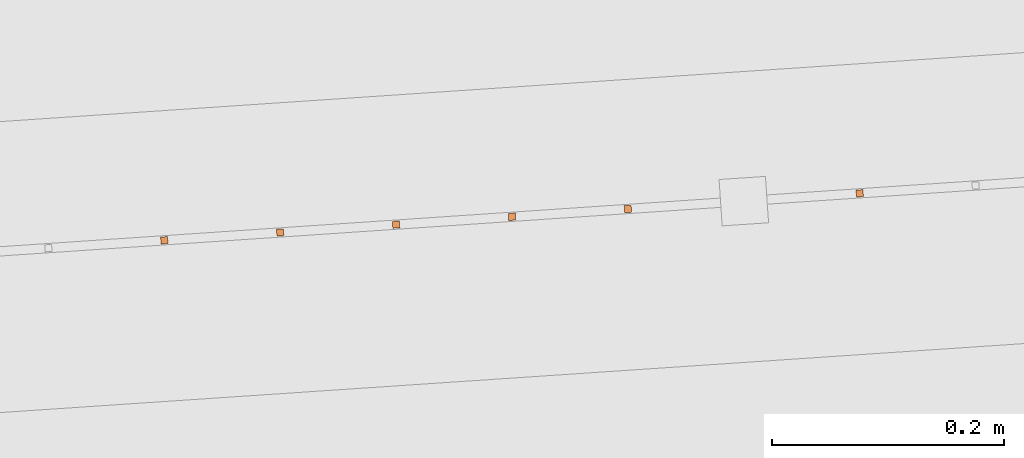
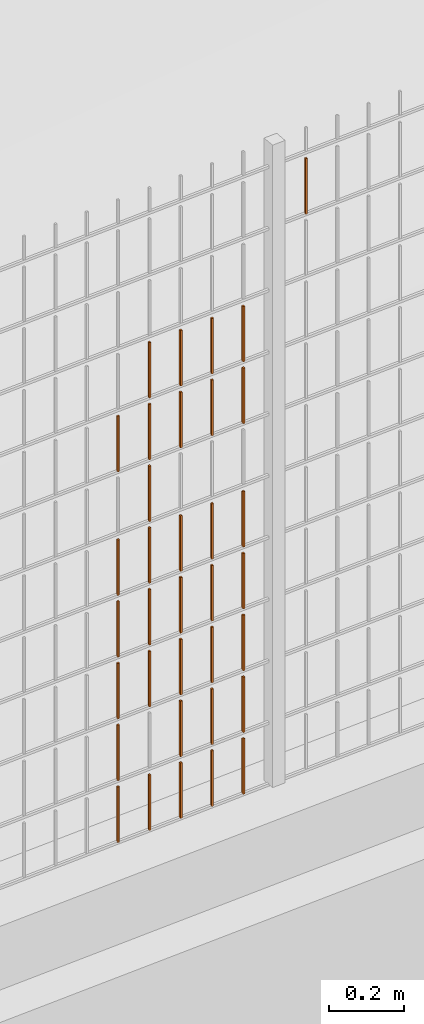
# One storey, part 188 of 1809: 35 proxies, 1 element without a shape of its own.
"""IFC2X3 building model written with IfcOpenShell, lengths in millimetres."""

import ifcopenshell
import ifcopenshell.guid

model = None  # the IFC model being written
_history = None  # IfcOwnerHistory: only IFC2X3 demands one
_inside = {}  # id of a spatial element -> (the spatial element, [elements in it])
_under = {}  # id of a project, library or spatial element -> (it, [spatial elements below it])
_declared = {}  # id of a project -> (the project, [libraries it declares])
_typed = {}  # id of a type object -> (the type object, [elements of that type])
_made_of = {}  # id of a material, layer set ... -> (it, [elements and type objects made of it])


def new_model(schema):
    """Start an empty IFC model of exactly this schema.

    Asked for "IFC4X3", IfcOpenShell would pick the latest addendum, in which some entities
    have other attributes; the version numbers below select the first issue.
    IFC2X3 requires an IfcOwnerHistory on every rooted entity: one is made here for all.
    """
    global model, _history
    if schema == "IFC4X3":
        model = ifcopenshell.file(schema_version=(4, 3, 0, 0))
    else:
        model = ifcopenshell.file(schema=schema)
    _inside.clear()
    _under.clear()
    _declared.clear()
    _typed.clear()
    _made_of.clear()
    _history = None
    if model.schema == "IFC2X3":
        org = make("IfcOrganization", Name="unknown")
        user = make(
            "IfcPersonAndOrganization",
            ThePerson=make("IfcPerson", FamilyName="unknown"),
            TheOrganization=org,
        )
        app = make(
            "IfcApplication",
            ApplicationDeveloper=org,
            Version="unknown",
            ApplicationFullName="unknown",
            ApplicationIdentifier="unknown",
        )
        _history = make(
            "IfcOwnerHistory",
            OwningUser=user,
            OwningApplication=app,
            ChangeAction="ADDED",
            CreationDate=0,
        )
    return model


def make(cls, **values):
    """One entity of the class cls with the attributes given. An attribute that is None is left unset."""
    return model.create_entity(
        cls, **{name: value for name, value in values.items() if value is not None}
    )


def entity(cls, *values):
    """Any entity or typed value of the class cls, its attributes in the order of the schema. None: left unset."""
    e = model.create_entity(cls)
    for i, value in enumerate(values):
        if value is not None:
            e[i] = value
    return e


def rooted(cls, **values):
    """An entity with a GlobalId (a new one), such as an element, a storey or a relation."""
    return make(cls, GlobalId=ifcopenshell.guid.new(), OwnerHistory=_history, **values)


def si_unit(unit_type, name, prefix=None):
    """IfcSIUnit, for example si_unit("LENGTHUNIT", "METRE", prefix="MILLI")."""
    return make("IfcSIUnit", UnitType=unit_type, Prefix=prefix, Name=name)


def converted_unit(unit_type, name, factor, base, dimensions=None, offset=None):
    """IfcConversionBasedUnit, such as the inch: factor (a typed value) times the base unit."""
    return make(
        "IfcConversionBasedUnit"
        if offset is None
        else "IfcConversionBasedUnitWithOffset",
        ConversionOffset=offset,
        Dimensions=None
        if dimensions is None
        else entity("IfcDimensionalExponents", *dimensions),
        UnitType=unit_type,
        Name=name,
        ConversionFactor=make(
            "IfcMeasureWithUnit", ValueComponent=factor, UnitComponent=base
        ),
    )


def derived_unit(unit_type, elements):
    """IfcDerivedUnit: a product of units, each with its exponent."""
    return make(
        "IfcDerivedUnit",
        Elements=[
            make("IfcDerivedUnitElement", Unit=unit, Exponent=power)
            for unit, power in elements
        ],
        UnitType=unit_type,
    )


def money_unit(currency):
    """IfcMonetaryUnit."""
    return make("IfcMonetaryUnit", Currency=currency)


def assignment(units):
    """IfcUnitAssignment: the units of a project."""
    return None if units is None else make("IfcUnitAssignment", Units=units)


def point(xyz):
    """IfcCartesianPoint."""
    return None if xyz is None else make("IfcCartesianPoint", Coordinates=xyz)


def direction(xyz):
    """IfcDirection."""
    return None if xyz is None else make("IfcDirection", DirectionRatios=xyz)


def frame(location, z_axis=None, x_axis=None):
    """IfcAxis2Placement3D, a coordinate frame: its origin and axes. An axis left out is left unset."""
    return make(
        "IfcAxis2Placement3D",
        Location=point(location),
        Axis=direction(z_axis),
        RefDirection=direction(x_axis),
    )


def origin_with_axes():
    """The frame at (0, 0, 0) with the z axis (0, 0, 1) and the x axis (1, 0, 0) written out."""
    return frame((0.0, 0.0, 0.0), z_axis=(0.0, 0.0, 1.0), x_axis=(1.0, 0.0, 0.0))


def place(relative_to, where):
    """IfcLocalPlacement: puts the frame where relative to a parent placement (None: the world)."""
    return make(
        "IfcLocalPlacement", PlacementRelTo=relative_to, RelativePlacement=where
    )


def context(
    kind, dimensions, precision=None, world=None, true_north=None, identifier=None
):
    """IfcGeometricRepresentationContext, for example the 3D "Model" context."""
    return make(
        "IfcGeometricRepresentationContext",
        ContextIdentifier=identifier,
        ContextType=kind,
        CoordinateSpaceDimension=dimensions,
        Precision=precision,
        WorldCoordinateSystem=world,
        TrueNorth=true_north,
    )


def subcontext(parent, identifier, kind, view, scale=None):
    """IfcGeometricRepresentationSubContext, for example "Body" below "Model"."""
    return make(
        "IfcGeometricRepresentationSubContext",
        ContextIdentifier=identifier,
        ContextType=kind,
        ParentContext=parent,
        TargetScale=scale,
        TargetView=view,
    )


def project(units=None, contexts=None):
    """IfcProject with its units and contexts."""
    return rooted(
        "IfcProject",
        Name="project",
        RepresentationContexts=contexts,
        UnitsInContext=assignment(units),
    )


def spatial(cls, under=None, at=None, **own):
    """A site, building, storey or space (cls), placed at a placement, below another one or the project."""
    s = rooted(cls, ObjectPlacement=at, **own)
    if under is not None:
        _under.setdefault(under.id(), (under, []))[1].append(s)
    return s


def faces_of(points, faces, orient=None, outer=None):
    """IfcFace entities. A face is a list of loops; a loop is a list of indices into points, from 0.

    orient and outer hold one flag for each loop. By default every Orientation is true, the
    first loop of a face is its IfcFaceOuterBound and the others are IfcFaceBound.
    """
    made = []
    for i, loops in enumerate(faces):
        bounds = []
        for j, loop in enumerate(loops):
            is_outer = j == 0 if outer is None else outer[i][j]
            bounds.append(
                make(
                    "IfcFaceOuterBound" if is_outer else "IfcFaceBound",
                    Bound=make("IfcPolyLoop", Polygon=[points[k] for k in loop]),
                    Orientation=True if orient is None else orient[i][j],
                )
            )
        made.append(make("IfcFace", Bounds=bounds))
    return made


def faceted_brep(points, faces, orient=None, outer=None, voids=None):
    """IfcFacetedBrep: a solid bounded by flat faces; with voids (closed shells), ...WithVoids."""
    shared = [point(p) for p in points]
    hull = make("IfcClosedShell", CfsFaces=faces_of(shared, faces, orient, outer))
    if voids is None:
        return make("IfcFacetedBrep", Outer=hull)
    return make(
        "IfcFacetedBrepWithVoids",
        Outer=hull,
        Voids=[
            make(cls, CfsFaces=faces_of(shared, fs, o, b)) for cls, fs, o, b in voids
        ],
    )


def shape(context_of_items, identifier, shape_type, items):
    """IfcShapeRepresentation: the items that make up one representation, for example the "Body"."""
    return make(
        "IfcShapeRepresentation",
        ContextOfItems=context_of_items,
        RepresentationIdentifier=identifier,
        RepresentationType=shape_type,
        Items=items,
    )


def source(mapping_origin, context_of_items, identifier, shape_type, items):
    """IfcRepresentationMap: a shape defined once, which mapped items show again and again."""
    return make(
        "IfcRepresentationMap",
        MappingOrigin=mapping_origin,
        MappedRepresentation=shape(context_of_items, identifier, shape_type, items),
    )


def transform(
    local_origin,
    x_axis=None,
    y_axis=None,
    z_axis=None,
    scale=None,
    scale2=None,
    scale3=None,
    uniform=True,
):
    """IfcCartesianTransformationOperator3D, or its non-uniform kind. x_axis, y_axis, z_axis: its Axis1, 2, 3."""
    if uniform:
        return make(
            "IfcCartesianTransformationOperator3D",
            Axis1=direction(x_axis),
            Axis2=direction(y_axis),
            LocalOrigin=point(local_origin),
            Scale=scale,
            Axis3=direction(z_axis),
        )
    return make(
        "IfcCartesianTransformationOperator3DnonUniform",
        Axis1=direction(x_axis),
        Axis2=direction(y_axis),
        LocalOrigin=point(local_origin),
        Scale=scale,
        Axis3=direction(z_axis),
        Scale2=scale2,
        Scale3=scale3,
    )


def mapped(mapping_source, mapping_target):
    """IfcMappedItem: shows the shape of a source again, moved by a transform."""
    return make(
        "IfcMappedItem", MappingSource=mapping_source, MappingTarget=mapping_target
    )


def material(Name=None, Category=None):
    """IfcMaterial."""
    return make("IfcMaterial", Name=Name, Category=Category)


def made_of(thing, what):
    """Note that an element or type object is made of a material, layer set ...; save() writes the relation."""
    if what is not None:
        _made_of.setdefault(what.id(), (what, []))[1].append(thing)
    return thing


def type_object(cls, material=None, **own):
    """A type object (cls), such as IfcWallType, which elements share."""
    return made_of(rooted(cls, **own), material)


def element(
    cls,
    number,
    at=None,
    inside=None,
    cuts=None,
    type_object=None,
    material=None,
    context=None,
    identifier="Body",
    shape_type=None,
    held_by="IfcProductDefinitionShape",
    body=None,
    shapes=None,
    **own,
):
    """One element of the class cls, such as IfcWall. Its Tag is "e" and its number.

    at: its placement. inside: the storey or other place that contains it. cuts: it is an
    opening in that element (IfcRelVoidsElement). A single representation is given by context,
    identifier, shape_type and body (its items); several are given by shapes. held_by: the class
    of the entity that holds the representations. save() writes the other relations.
    """
    e = rooted(cls, Tag="e%d" % number, ObjectPlacement=at, **own)
    if body is not None:
        shapes = [shape(context, identifier, shape_type, body)]
    if shapes is not None:
        e.Representation = make(held_by, Representations=shapes)
    if inside is not None:
        _inside.setdefault(inside.id(), (inside, []))[1].append(e)
    if cuts is not None:
        rooted(
            "IfcRelVoidsElement", RelatingBuildingElement=cuts, RelatedOpeningElement=e
        )
    if type_object is not None:
        _typed.setdefault(type_object.id(), (type_object, []))[1].append(e)
    return made_of(e, material)


def aggregate(whole, parts):
    """IfcRelAggregates: a whole, such as a stair, and the parts it consists of."""
    return rooted("IfcRelAggregates", RelatingObject=whole, RelatedObjects=parts)


def save(model, path):
    """Write the relations noted so far, then the file.

    IfcRelAggregates (storeys below a building ...), IfcRelContainedInSpatialStructure (elements
    in a storey), IfcRelDefinesByType, IfcRelAssociatesMaterial and IfcRelDeclares: one each for
    every whole, place, type object, material and project.
    """
    for whole, parts in _under.values():
        aggregate(whole, parts)
    for where, things in _inside.values():
        rooted(
            "IfcRelContainedInSpatialStructure",
            RelatedElements=things,
            RelatingStructure=where,
        )
    for kind, things in _typed.values():
        rooted("IfcRelDefinesByType", RelatedObjects=things, RelatingType=kind)
    for what, things in _made_of.values():
        rooted("IfcRelAssociatesMaterial", RelatedObjects=things, RelatingMaterial=what)
    for by, libraries in _declared.values():
        rooted("IfcRelDeclares", RelatingContext=by, RelatedDefinitions=libraries)
    model.write(path)


model = new_model("IFC2X3")

# Units and contexts
model_context = context("Model", 3, precision=0.01, world=origin_with_axes(), true_north=direction((0.0, 1.0)))
body_context = subcontext(model_context, "Body", "Model", "MODEL_VIEW")
ifc_project = project(units=[si_unit("LENGTHUNIT", "METRE", prefix="MILLI"), si_unit("AREAUNIT", "SQUARE_METRE"), si_unit("VOLUMEUNIT", "CUBIC_METRE"), converted_unit("PLANEANGLEUNIT", "DEGREE", entity("IfcPlaneAngleMeasure", 0.0174532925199), si_unit("PLANEANGLEUNIT", "RADIAN"), dimensions=[0, 0, 0, 0, 0, 0, 0]), si_unit("SOLIDANGLEUNIT", "STERADIAN"), money_unit("EUR"), converted_unit("TIMEUNIT", "Year", entity("IfcTimeMeasure", 31556926.0), si_unit("TIMEUNIT", "SECOND"), dimensions=[0, 0, 1, 0, 0, 0, 0]), si_unit("MASSUNIT", "GRAM", prefix="KILO"), si_unit("THERMODYNAMICTEMPERATUREUNIT", "DEGREE_CELSIUS"), si_unit("LUMINOUSINTENSITYUNIT", "LUMEN"), si_unit("ENERGYUNIT", "JOULE", prefix="MEGA"), derived_unit("THERMALCONDUCTANCEUNIT", [(si_unit("POWERUNIT", "WATT"), 1), (si_unit("LENGTHUNIT", "METRE"), -1), (si_unit("THERMODYNAMICTEMPERATUREUNIT", "KELVIN"), -1)]), derived_unit("SPECIFICHEATCAPACITYUNIT", [(si_unit("ENERGYUNIT", "JOULE"), 1), (si_unit("MASSUNIT", "GRAM", prefix="KILO"), -1), (si_unit("THERMODYNAMICTEMPERATUREUNIT", "KELVIN"), -1)]), derived_unit("MASSDENSITYUNIT", [(si_unit("MASSUNIT", "GRAM", prefix="KILO"), 1), (si_unit("VOLUMEUNIT", "CUBIC_METRE"), -1)])], contexts=[model_context])

# Site, building, storey
site_placement = place(None, origin_with_axes())
site = spatial("IfcSite", under=ifc_project, at=site_placement, Name="Politse- ja Piirivalveameti ning Päästeameti ühishoone", CompositionType="ELEMENT")
building_placement = place(site_placement, origin_with_axes())
building = spatial("IfcBuilding", under=site, at=building_placement, Name="Politse- ja Piirivalveameti ning Päästeameti ühishoone", CompositionType="ELEMENT")
storey_placement = place(building_placement, origin_with_axes())
storey = spatial("IfcBuildingStorey", under=building, at=storey_placement, Name="Esimene korrus", CompositionType="ELEMENT", Elevation=0.0)

# Proxies
building_element_proxy_type_1 = type_object("IfcBuildingElementProxyType", Name="Railing Type", PredefinedType="NOTDEFINED")
proxy_1_placement = place(storey_placement, frame((89252.001212, -29183.4766571, 203.661247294), z_axis=(0.0, 0.0, 1.0), x_axis=(1.0, 0.0, 0.0)))
proxy_1 = element("IfcBuildingElementProxy", 1, at=proxy_1_placement, inside=storey, type_object=building_element_proxy_type_1, Name="PIIRDEAED")
ifc_material = material(Name="ET-03_Raud")
building_element_proxy_type_2 = type_object("IfcBuildingElementProxyType", Name="IfcBuildingElementProxy", PredefinedType="NOTDEFINED")
shared_shape_1 = source(origin_with_axes(), body_context, "Body", "Brep", [
    faceted_brep([(3.0, 3.0, -0.000752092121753), (-3.0, 3.0, -0.000752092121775), (-3.0, 3.0, 179.99926046), (3.0, 3.0, 179.99926046), (3.0, -3.0, 0.000752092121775), (-3.0, -3.0, 0.000752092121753), (-3.0, -3.0, 180.000764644), (3.0, -3.0, 180.000764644)], [[[0, 1, 2, 3]], [[0, 4, 5, 1]], [[1, 5, 6, 2]], [[3, 2, 6, 7]], [[4, 0, 3, 7]], [[5, 4, 7, 6]]]),
])
proxy_2_placement = place(proxy_1_placement, frame((-69568.1664524, -21996.8418647, 1809.75408794), z_axis=(0.0, 0.0, 1.0), x_axis=(1.0, 0.0, 0.0)))
proxy_2 = element("IfcBuildingElementProxy", 2, at=proxy_2_placement, type_object=building_element_proxy_type_2, material=ifc_material, Name="BALUSTER - 001", context=body_context, shape_type="MappedRepresentation", body=[
    mapped(shared_shape_1, transform((0.0, 0.0, 0.0), x_axis=(-0.0673926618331, 0.997726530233, 0.0), y_axis=(-0.997726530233, -0.0673926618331, 0.0), z_axis=(0.0, 0.0, 1.0))),
])
shared_shape_2 = source(origin_with_axes(), body_context, "Body", "Brep", [
    faceted_brep([(3.0, 3.0, -0.000752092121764), (-3.0, 3.0, -0.000752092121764), (-3.0, 3.0, 179.99926046), (3.0, 3.0, 179.99926046), (3.0, -3.0, 0.000752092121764), (-3.0, -3.0, 0.000752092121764), (-3.0, -3.0, 180.000764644), (3.0, -3.0, 180.000764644)], [[[0, 1, 2, 3]], [[0, 4, 5, 1]], [[1, 5, 6, 2]], [[3, 2, 6, 7]], [[4, 0, 3, 7]], [[5, 4, 7, 6]]]),
])
proxy_3_placement = place(proxy_1_placement, frame((-70166.8023706, -22037.2774618, 9.60366951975), z_axis=(0.0, 0.0, 1.0), x_axis=(1.0, 0.0, 0.0)))
proxy_3 = element("IfcBuildingElementProxy", 3, at=proxy_3_placement, type_object=building_element_proxy_type_2, material=ifc_material, Name="BALUSTER - 001", context=body_context, shape_type="MappedRepresentation", body=[
    mapped(shared_shape_2, transform((0.0, 0.0, 0.0), x_axis=(-0.0673926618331, 0.997726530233, 0.0), y_axis=(-0.997726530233, -0.0673926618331, 0.0), z_axis=(0.0, 0.0, 1.0))),
])
shared_shape_3 = source(origin_with_axes(), body_context, "Body", "Brep", [
    faceted_brep([(3.0, 3.0, -0.000752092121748), (-3.0, 3.0, -0.00075209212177), (-3.0, 3.0, 179.99926046), (3.0, 3.0, 179.99926046), (3.0, -3.0, 0.00075209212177), (-3.0, -3.0, 0.000752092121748), (-3.0, -3.0, 180.000764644), (3.0, -3.0, 180.000764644)], [[[0, 1, 2, 3]], [[0, 4, 5, 1]], [[1, 5, 6, 2]], [[3, 2, 6, 7]], [[4, 0, 3, 7]], [[5, 4, 7, 6]]]),
])
proxy_4_placement = place(proxy_1_placement, frame((-69767.7117585, -22010.320397, 9.70394846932), z_axis=(0.0, 0.0, 1.0), x_axis=(1.0, 0.0, 0.0)))
proxy_4 = element("IfcBuildingElementProxy", 4, at=proxy_4_placement, type_object=building_element_proxy_type_2, material=ifc_material, Name="BALUSTER - 001", context=body_context, shape_type="MappedRepresentation", body=[
    mapped(shared_shape_3, transform((0.0, 0.0, 0.0), x_axis=(-0.0673926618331, 0.997726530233, 0.0), y_axis=(-0.997726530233, -0.0673926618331, 0.0), z_axis=(0.0, 0.0, 1.0))),
])
shared_shape_4 = source(origin_with_axes(), body_context, "Body", "Brep", [
    faceted_brep([(3.0, 3.0, -0.000752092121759), (-3.0, 3.0, -0.000752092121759), (-3.0, 3.0, 179.99926046), (3.0, 3.0, 179.99926046), (3.0, -3.0, 0.000752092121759), (-3.0, -3.0, 0.000752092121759), (-3.0, -3.0, 180.000764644), (3.0, -3.0, 180.000764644)], [[[0, 1, 2, 3]], [[0, 4, 5, 1]], [[1, 5, 6, 2]], [[3, 2, 6, 7]], [[4, 0, 3, 7]], [[5, 4, 7, 6]]]),
])
proxy_5_placement = place(proxy_1_placement, frame((-69967.2570645, -22023.7989294, 9.65380899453), z_axis=(0.0, 0.0, 1.0), x_axis=(1.0, 0.0, 0.0)))
proxy_5 = element("IfcBuildingElementProxy", 5, at=proxy_5_placement, type_object=building_element_proxy_type_2, material=ifc_material, Name="BALUSTER - 001", context=body_context, shape_type="MappedRepresentation", body=[
    mapped(shared_shape_4, transform((0.0, 0.0, 0.0), x_axis=(-0.0673926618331, 0.997726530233, 0.0), y_axis=(-0.997726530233, -0.0673926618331, 0.0), z_axis=(0.0, 0.0, 1.0))),
])
shared_shape_5 = source(origin_with_axes(), body_context, "Body", "Brep", [
    faceted_brep([(3.0, 3.0, -0.000752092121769), (-3.0, 3.0, -0.000752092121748), (-3.0, 3.0, 179.99926046), (3.0, 3.0, 179.99926046), (3.0, -3.0, 0.000752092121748), (-3.0, -3.0, 0.000752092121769), (-3.0, -3.0, 180.000764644), (3.0, -3.0, 180.000764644)], [[[0, 1, 2, 3]], [[0, 4, 5, 1]], [[1, 5, 6, 2]], [[3, 2, 6, 7]], [[4, 0, 3, 7]], [[5, 4, 7, 6]]]),
])
proxy_6_placement = place(proxy_1_placement, frame((-70067.0297175, -22030.5381956, 9.62873925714), z_axis=(0.0, 0.0, 1.0), x_axis=(1.0, 0.0, 0.0)))
proxy_6 = element("IfcBuildingElementProxy", 6, at=proxy_6_placement, type_object=building_element_proxy_type_2, material=ifc_material, Name="BALUSTER - 001", context=body_context, shape_type="MappedRepresentation", body=[
    mapped(shared_shape_5, transform((0.0, 0.0, 0.0), x_axis=(-0.0673926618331, 0.997726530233, 0.0), y_axis=(-0.997726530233, -0.0673926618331, 0.0), z_axis=(0.0, 0.0, 1.0))),
])
shared_shape_6 = source(origin_with_axes(), body_context, "Body", "Brep", [
    faceted_brep([(3.0, 3.0, -0.000752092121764), (-3.0, 3.0, -0.000752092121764), (-3.0, 3.0, 179.99926046), (3.0, 3.0, 179.99926046), (3.0, -3.0, 0.000752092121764), (-3.0, -3.0, 0.000752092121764), (-3.0, -3.0, 180.000764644), (3.0, -3.0, 180.000764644)], [[[0, 1, 2, 3]], [[0, 4, 5, 1]], [[1, 5, 6, 2]], [[3, 2, 6, 7]], [[4, 0, 3, 7]], [[5, 4, 7, 6]]]),
])
proxy_7_placement = place(proxy_1_placement, frame((-69867.4844115, -22017.0596632, 9.67887873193), z_axis=(0.0, 0.0, 1.0), x_axis=(1.0, 0.0, 0.0)))
proxy_7 = element("IfcBuildingElementProxy", 7, at=proxy_7_placement, type_object=building_element_proxy_type_2, material=ifc_material, Name="BALUSTER - 001", context=body_context, shape_type="MappedRepresentation", body=[
    mapped(shared_shape_6, transform((0.0, 0.0, 0.0), x_axis=(-0.0673926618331, 0.997726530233, 0.0), y_axis=(-0.997726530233, -0.0673926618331, 0.0), z_axis=(0.0, 0.0, 1.0))),
])
shared_shape_7 = source(origin_with_axes(), body_context, "Body", "Brep", [
    faceted_brep([(3.0, 3.0, -0.000752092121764), (-3.0, 3.0, -0.000752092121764), (-3.0, 3.0, 179.99926046), (3.0, 3.0, 179.99926046), (3.0, -3.0, 0.000752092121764), (-3.0, -3.0, 0.000752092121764), (-3.0, -3.0, 180.000764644), (3.0, -3.0, 180.000764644)], [[[0, 1, 2, 3]], [[0, 4, 5, 1]], [[1, 5, 6, 2]], [[3, 2, 6, 7]], [[4, 0, 3, 7]], [[5, 4, 7, 6]]]),
])
proxy_8_placement = place(proxy_1_placement, frame((-70166.8023706, -22037.2774618, 209.60366952), z_axis=(0.0, 0.0, 1.0), x_axis=(1.0, 0.0, 0.0)))
proxy_8 = element("IfcBuildingElementProxy", 8, at=proxy_8_placement, type_object=building_element_proxy_type_2, material=ifc_material, Name="BALUSTER - 001", context=body_context, shape_type="MappedRepresentation", body=[
    mapped(shared_shape_7, transform((0.0, 0.0, 0.0), x_axis=(-0.0673926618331, 0.997726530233, 0.0), y_axis=(-0.997726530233, -0.0673926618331, 0.0), z_axis=(0.0, 0.0, 1.0))),
])
shared_shape_8 = source(origin_with_axes(), body_context, "Body", "Brep", [
    faceted_brep([(3.0, 3.0, -0.000752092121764), (-3.0, 3.0, -0.000752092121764), (-3.0, 3.0, 179.99926046), (3.0, 3.0, 179.99926046), (3.0, -3.0, 0.000752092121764), (-3.0, -3.0, 0.000752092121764), (-3.0, -3.0, 180.000764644), (3.0, -3.0, 180.000764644)], [[[0, 1, 2, 3]], [[0, 4, 5, 1]], [[1, 5, 6, 2]], [[3, 2, 6, 7]], [[4, 0, 3, 7]], [[5, 4, 7, 6]]]),
])
proxy_9_placement = place(proxy_1_placement, frame((-69867.4844115, -22017.0596632, 209.678878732), z_axis=(0.0, 0.0, 1.0), x_axis=(1.0, 0.0, 0.0)))
proxy_9 = element("IfcBuildingElementProxy", 9, at=proxy_9_placement, type_object=building_element_proxy_type_2, material=ifc_material, Name="BALUSTER - 001", context=body_context, shape_type="MappedRepresentation", body=[
    mapped(shared_shape_8, transform((0.0, 0.0, 0.0), x_axis=(-0.0673926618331, 0.997726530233, 0.0), y_axis=(-0.997726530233, -0.0673926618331, 0.0), z_axis=(0.0, 0.0, 1.0))),
])
proxy_10_placement = place(proxy_1_placement, frame((-70166.8023706, -22037.2774618, 409.60366952), z_axis=(0.0, 0.0, 1.0), x_axis=(1.0, 0.0, 0.0)))
proxy_10 = element("IfcBuildingElementProxy", 10, at=proxy_10_placement, type_object=building_element_proxy_type_2, material=ifc_material, Name="BALUSTER - 001", context=body_context, shape_type="MappedRepresentation", body=[
    mapped(shared_shape_8, transform((0.0, 0.0, 0.0), x_axis=(-0.0673926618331, 0.997726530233, 0.0), y_axis=(-0.997726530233, -0.0673926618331, 0.0), z_axis=(0.0, 0.0, 1.0))),
])
proxy_11_placement = place(proxy_1_placement, frame((-69867.4844115, -22017.0596632, 609.678878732), z_axis=(0.0, 0.0, 1.0), x_axis=(1.0, 0.0, 0.0)))
proxy_11 = element("IfcBuildingElementProxy", 11, at=proxy_11_placement, type_object=building_element_proxy_type_2, material=ifc_material, Name="BALUSTER - 001", context=body_context, shape_type="MappedRepresentation", body=[
    mapped(shared_shape_8, transform((0.0, 0.0, 0.0), x_axis=(-0.0673926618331, 0.997726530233, 0.0), y_axis=(-0.997726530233, -0.0673926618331, 0.0), z_axis=(0.0, 0.0, 1.0))),
])
proxy_12_placement = place(proxy_1_placement, frame((-70166.8023706, -22037.2774618, 609.60366952), z_axis=(0.0, 0.0, 1.0), x_axis=(1.0, 0.0, 0.0)))
proxy_12 = element("IfcBuildingElementProxy", 12, at=proxy_12_placement, type_object=building_element_proxy_type_2, material=ifc_material, Name="BALUSTER - 001", context=body_context, shape_type="MappedRepresentation", body=[
    mapped(shared_shape_8, transform((0.0, 0.0, 0.0), x_axis=(-0.0673926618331, 0.997726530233, 0.0), y_axis=(-0.997726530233, -0.0673926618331, 0.0), z_axis=(0.0, 0.0, 1.0))),
])
shared_shape_9 = source(origin_with_axes(), body_context, "Body", "Brep", [
    faceted_brep([(3.0, 3.0, -0.000752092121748), (-3.0, 3.0, -0.00075209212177), (-3.0, 3.0, 179.99926046), (3.0, 3.0, 179.99926046), (3.0, -3.0, 0.00075209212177), (-3.0, -3.0, 0.000752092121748), (-3.0, -3.0, 180.000764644), (3.0, -3.0, 180.000764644)], [[[0, 1, 2, 3]], [[0, 4, 5, 1]], [[1, 5, 6, 2]], [[3, 2, 6, 7]], [[4, 0, 3, 7]], [[5, 4, 7, 6]]]),
])
proxy_13_placement = place(proxy_1_placement, frame((-69767.7117585, -22010.320397, 209.703948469), z_axis=(0.0, 0.0, 1.0), x_axis=(1.0, 0.0, 0.0)))
proxy_13 = element("IfcBuildingElementProxy", 13, at=proxy_13_placement, type_object=building_element_proxy_type_2, material=ifc_material, Name="BALUSTER - 001", context=body_context, shape_type="MappedRepresentation", body=[
    mapped(shared_shape_9, transform((0.0, 0.0, 0.0), x_axis=(-0.0673926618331, 0.997726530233, 0.0), y_axis=(-0.997726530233, -0.0673926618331, 0.0), z_axis=(0.0, 0.0, 1.0))),
])
proxy_14_placement = place(proxy_1_placement, frame((-69767.7117585, -22010.320397, 409.703948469), z_axis=(0.0, 0.0, 1.0), x_axis=(1.0, 0.0, 0.0)))
proxy_14 = element("IfcBuildingElementProxy", 14, at=proxy_14_placement, type_object=building_element_proxy_type_2, material=ifc_material, Name="BALUSTER - 001", context=body_context, shape_type="MappedRepresentation", body=[
    mapped(shared_shape_9, transform((0.0, 0.0, 0.0), x_axis=(-0.0673926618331, 0.997726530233, 0.0), y_axis=(-0.997726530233, -0.0673926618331, 0.0), z_axis=(0.0, 0.0, 1.0))),
])
shared_shape_10 = source(origin_with_axes(), body_context, "Body", "Brep", [
    faceted_brep([(3.0, 3.0, -0.000752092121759), (-3.0, 3.0, -0.000752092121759), (-3.0, 3.0, 179.99926046), (3.0, 3.0, 179.99926046), (3.0, -3.0, 0.000752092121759), (-3.0, -3.0, 0.000752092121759), (-3.0, -3.0, 180.000764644), (3.0, -3.0, 180.000764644)], [[[0, 1, 2, 3]], [[0, 4, 5, 1]], [[1, 5, 6, 2]], [[3, 2, 6, 7]], [[4, 0, 3, 7]], [[5, 4, 7, 6]]]),
])
proxy_15_placement = place(proxy_1_placement, frame((-69967.2570645, -22023.7989294, 209.653808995), z_axis=(0.0, 0.0, 1.0), x_axis=(1.0, 0.0, 0.0)))
proxy_15 = element("IfcBuildingElementProxy", 15, at=proxy_15_placement, type_object=building_element_proxy_type_2, material=ifc_material, Name="BALUSTER - 001", context=body_context, shape_type="MappedRepresentation", body=[
    mapped(shared_shape_10, transform((0.0, 0.0, 0.0), x_axis=(-0.0673926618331, 0.997726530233, 0.0), y_axis=(-0.997726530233, -0.0673926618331, 0.0), z_axis=(0.0, 0.0, 1.0))),
])
proxy_16_placement = place(proxy_1_placement, frame((-69967.2570645, -22023.7989294, 409.653808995), z_axis=(0.0, 0.0, 1.0), x_axis=(1.0, 0.0, 0.0)))
proxy_16 = element("IfcBuildingElementProxy", 16, at=proxy_16_placement, type_object=building_element_proxy_type_2, material=ifc_material, Name="BALUSTER - 001", context=body_context, shape_type="MappedRepresentation", body=[
    mapped(shared_shape_10, transform((0.0, 0.0, 0.0), x_axis=(-0.0673926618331, 0.997726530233, 0.0), y_axis=(-0.997726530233, -0.0673926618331, 0.0), z_axis=(0.0, 0.0, 1.0))),
])
shared_shape_11 = source(origin_with_axes(), body_context, "Body", "Brep", [
    faceted_brep([(3.0, 3.0, -0.000752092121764), (-3.0, 3.0, -0.000752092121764), (-3.0, 3.0, 179.99926046), (3.0, 3.0, 179.99926046), (3.0, -3.0, 0.000752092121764), (-3.0, -3.0, 0.000752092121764), (-3.0, -3.0, 180.000764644), (3.0, -3.0, 180.000764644)], [[[0, 1, 2, 3]], [[0, 4, 5, 1]], [[1, 5, 6, 2]], [[3, 2, 6, 7]], [[4, 0, 3, 7]], [[5, 4, 7, 6]]]),
])
proxy_17_placement = place(proxy_1_placement, frame((-69867.4844115, -22017.0596632, 409.678878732), z_axis=(0.0, 0.0, 1.0), x_axis=(1.0, 0.0, 0.0)))
proxy_17 = element("IfcBuildingElementProxy", 17, at=proxy_17_placement, type_object=building_element_proxy_type_2, material=ifc_material, Name="BALUSTER - 001", context=body_context, shape_type="MappedRepresentation", body=[
    mapped(shared_shape_11, transform((0.0, 0.0, 0.0), x_axis=(-0.0673926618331, 0.997726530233, 0.0), y_axis=(-0.997726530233, -0.0673926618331, 0.0), z_axis=(0.0, 0.0, 1.0))),
])
shared_shape_12 = source(origin_with_axes(), body_context, "Body", "Brep", [
    faceted_brep([(3.0, 3.0, -0.000752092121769), (-3.0, 3.0, -0.000752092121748), (-3.0, 3.0, 179.99926046), (3.0, 3.0, 179.99926046), (3.0, -3.0, 0.000752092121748), (-3.0, -3.0, 0.000752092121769), (-3.0, -3.0, 180.000764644), (3.0, -3.0, 180.000764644)], [[[0, 1, 2, 3]], [[0, 4, 5, 1]], [[1, 5, 6, 2]], [[3, 2, 6, 7]], [[4, 0, 3, 7]], [[5, 4, 7, 6]]]),
])
proxy_18_placement = place(proxy_1_placement, frame((-70067.0297175, -22030.5381956, 409.628739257), z_axis=(0.0, 0.0, 1.0), x_axis=(1.0, 0.0, 0.0)))
proxy_18 = element("IfcBuildingElementProxy", 18, at=proxy_18_placement, type_object=building_element_proxy_type_2, material=ifc_material, Name="BALUSTER - 001", context=body_context, shape_type="MappedRepresentation", body=[
    mapped(shared_shape_12, transform((0.0, 0.0, 0.0), x_axis=(-0.0673926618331, 0.997726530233, 0.0), y_axis=(-0.997726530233, -0.0673926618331, 0.0), z_axis=(0.0, 0.0, 1.0))),
])
proxy_19_placement = place(proxy_1_placement, frame((-70067.0297175, -22030.5381956, 609.628739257), z_axis=(0.0, 0.0, 1.0), x_axis=(1.0, 0.0, 0.0)))
proxy_19 = element("IfcBuildingElementProxy", 19, at=proxy_19_placement, type_object=building_element_proxy_type_2, material=ifc_material, Name="BALUSTER - 001", context=body_context, shape_type="MappedRepresentation", body=[
    mapped(shared_shape_12, transform((0.0, 0.0, 0.0), x_axis=(-0.0673926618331, 0.997726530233, 0.0), y_axis=(-0.997726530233, -0.0673926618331, 0.0), z_axis=(0.0, 0.0, 1.0))),
])
shared_shape_13 = source(origin_with_axes(), body_context, "Body", "Brep", [
    faceted_brep([(3.0, 3.0, -0.000752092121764), (-3.0, 3.0, -0.000752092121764), (-3.0, 3.0, 179.99926046), (3.0, 3.0, 179.99926046), (3.0, -3.0, 0.000752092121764), (-3.0, -3.0, 0.000752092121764), (-3.0, -3.0, 180.000764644), (3.0, -3.0, 180.000764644)], [[[0, 1, 2, 3]], [[0, 4, 5, 1]], [[1, 5, 6, 2]], [[3, 2, 6, 7]], [[4, 0, 3, 7]], [[5, 4, 7, 6]]]),
])
proxy_20_placement = place(proxy_1_placement, frame((-70067.0297175, -22030.5381956, 1209.62873926), z_axis=(0.0, 0.0, 1.0), x_axis=(1.0, 0.0, 0.0)))
proxy_20 = element("IfcBuildingElementProxy", 20, at=proxy_20_placement, type_object=building_element_proxy_type_2, material=ifc_material, Name="BALUSTER - 001", context=body_context, shape_type="MappedRepresentation", body=[
    mapped(shared_shape_13, transform((0.0, 0.0, 0.0), x_axis=(-0.0673926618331, 0.997726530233, 0.0), y_axis=(-0.997726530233, -0.0673926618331, 0.0), z_axis=(0.0, 0.0, 1.0))),
])
shared_shape_14 = source(origin_with_axes(), body_context, "Body", "Brep", [
    faceted_brep([(3.0, 3.0, -0.000752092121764), (-3.0, 3.0, -0.000752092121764), (-3.0, 3.0, 179.99926046), (3.0, 3.0, 179.99926046), (3.0, -3.0, 0.000752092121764), (-3.0, -3.0, 0.000752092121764), (-3.0, -3.0, 180.000764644), (3.0, -3.0, 180.000764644)], [[[0, 1, 2, 3]], [[0, 4, 5, 1]], [[1, 5, 6, 2]], [[3, 2, 6, 7]], [[4, 0, 3, 7]], [[5, 4, 7, 6]]]),
])
proxy_21_placement = place(proxy_1_placement, frame((-69867.4844115, -22017.0596632, 809.678878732), z_axis=(0.0, 0.0, 1.0), x_axis=(1.0, 0.0, 0.0)))
proxy_21 = element("IfcBuildingElementProxy", 21, at=proxy_21_placement, type_object=building_element_proxy_type_2, material=ifc_material, Name="BALUSTER - 001", context=body_context, shape_type="MappedRepresentation", body=[
    mapped(shared_shape_14, transform((0.0, 0.0, 0.0), x_axis=(-0.0673926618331, 0.997726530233, 0.0), y_axis=(-0.997726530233, -0.0673926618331, 0.0), z_axis=(0.0, 0.0, 1.0))),
])
proxy_22_placement = place(proxy_1_placement, frame((-70166.8023706, -22037.2774618, 809.60366952), z_axis=(0.0, 0.0, 1.0), x_axis=(1.0, 0.0, 0.0)))
proxy_22 = element("IfcBuildingElementProxy", 22, at=proxy_22_placement, type_object=building_element_proxy_type_2, material=ifc_material, Name="BALUSTER - 001", context=body_context, shape_type="MappedRepresentation", body=[
    mapped(shared_shape_14, transform((0.0, 0.0, 0.0), x_axis=(-0.0673926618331, 0.997726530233, 0.0), y_axis=(-0.997726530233, -0.0673926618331, 0.0), z_axis=(0.0, 0.0, 1.0))),
])
shared_shape_15 = source(origin_with_axes(), body_context, "Body", "Brep", [
    faceted_brep([(3.0, 3.0, -0.000752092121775), (-3.0, 3.0, -0.000752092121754), (-3.0, 3.0, 179.99926046), (3.0, 3.0, 179.99926046), (3.0, -3.0, 0.000752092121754), (-3.0, -3.0, 0.000752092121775), (-3.0, -3.0, 180.000764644), (3.0, -3.0, 180.000764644)], [[[0, 1, 2, 3]], [[0, 4, 5, 1]], [[1, 5, 6, 2]], [[3, 2, 6, 7]], [[4, 0, 3, 7]], [[5, 4, 7, 6]]]),
])
proxy_23_placement = place(proxy_1_placement, frame((-70166.8023706, -22037.2774618, 1209.60366952), z_axis=(0.0, 0.0, 1.0), x_axis=(1.0, 0.0, 0.0)))
proxy_23 = element("IfcBuildingElementProxy", 23, at=proxy_23_placement, type_object=building_element_proxy_type_2, material=ifc_material, Name="BALUSTER - 001", context=body_context, shape_type="MappedRepresentation", body=[
    mapped(shared_shape_15, transform((0.0, 0.0, 0.0), x_axis=(-0.0673926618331, 0.997726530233, 0.0), y_axis=(-0.997726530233, -0.0673926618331, 0.0), z_axis=(0.0, 0.0, 1.0))),
])
shared_shape_16 = source(origin_with_axes(), body_context, "Body", "Brep", [
    faceted_brep([(3.0, 3.0, -0.000752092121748), (-3.0, 3.0, -0.00075209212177), (-3.0, 3.0, 179.99926046), (3.0, 3.0, 179.99926046), (3.0, -3.0, 0.00075209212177), (-3.0, -3.0, 0.000752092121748), (-3.0, -3.0, 180.000764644), (3.0, -3.0, 180.000764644)], [[[0, 1, 2, 3]], [[0, 4, 5, 1]], [[1, 5, 6, 2]], [[3, 2, 6, 7]], [[4, 0, 3, 7]], [[5, 4, 7, 6]]]),
])
proxy_24_placement = place(proxy_1_placement, frame((-69767.7117585, -22010.320397, 609.703948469), z_axis=(0.0, 0.0, 1.0), x_axis=(1.0, 0.0, 0.0)))
proxy_24 = element("IfcBuildingElementProxy", 24, at=proxy_24_placement, type_object=building_element_proxy_type_2, material=ifc_material, Name="BALUSTER - 001", context=body_context, shape_type="MappedRepresentation", body=[
    mapped(shared_shape_16, transform((0.0, 0.0, 0.0), x_axis=(-0.0673926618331, 0.997726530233, 0.0), y_axis=(-0.997726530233, -0.0673926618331, 0.0), z_axis=(0.0, 0.0, 1.0))),
])
proxy_25_placement = place(proxy_1_placement, frame((-69767.7117585, -22010.320397, 809.703948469), z_axis=(0.0, 0.0, 1.0), x_axis=(1.0, 0.0, 0.0)))
proxy_25 = element("IfcBuildingElementProxy", 25, at=proxy_25_placement, type_object=building_element_proxy_type_2, material=ifc_material, Name="BALUSTER - 001", context=body_context, shape_type="MappedRepresentation", body=[
    mapped(shared_shape_16, transform((0.0, 0.0, 0.0), x_axis=(-0.0673926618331, 0.997726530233, 0.0), y_axis=(-0.997726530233, -0.0673926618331, 0.0), z_axis=(0.0, 0.0, 1.0))),
])
shared_shape_17 = source(origin_with_axes(), body_context, "Body", "Brep", [
    faceted_brep([(3.0, 3.0, -0.000752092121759), (-3.0, 3.0, -0.000752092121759), (-3.0, 3.0, 179.99926046), (3.0, 3.0, 179.99926046), (3.0, -3.0, 0.000752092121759), (-3.0, -3.0, 0.000752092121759), (-3.0, -3.0, 180.000764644), (3.0, -3.0, 180.000764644)], [[[0, 1, 2, 3]], [[0, 4, 5, 1]], [[1, 5, 6, 2]], [[3, 2, 6, 7]], [[4, 0, 3, 7]], [[5, 4, 7, 6]]]),
])
proxy_26_placement = place(proxy_1_placement, frame((-69967.2570645, -22023.7989294, 809.653808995), z_axis=(0.0, 0.0, 1.0), x_axis=(1.0, 0.0, 0.0)))
proxy_26 = element("IfcBuildingElementProxy", 26, at=proxy_26_placement, type_object=building_element_proxy_type_2, material=ifc_material, Name="BALUSTER - 001", context=body_context, shape_type="MappedRepresentation", body=[
    mapped(shared_shape_17, transform((0.0, 0.0, 0.0), x_axis=(-0.0673926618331, 0.997726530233, 0.0), y_axis=(-0.997726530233, -0.0673926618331, 0.0), z_axis=(0.0, 0.0, 1.0))),
])
proxy_27_placement = place(proxy_1_placement, frame((-69867.4844115, -22017.0596632, 1209.67887873), z_axis=(0.0, 0.0, 1.0), x_axis=(1.0, 0.0, 0.0)))
proxy_27 = element("IfcBuildingElementProxy", 27, at=proxy_27_placement, type_object=building_element_proxy_type_2, material=ifc_material, Name="BALUSTER - 001", context=body_context, shape_type="MappedRepresentation", body=[
    mapped(shared_shape_17, transform((0.0, 0.0, 0.0), x_axis=(-0.0673926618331, 0.997726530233, 0.0), y_axis=(-0.997726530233, -0.0673926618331, 0.0), z_axis=(0.0, 0.0, 1.0))),
])
shared_shape_18 = source(origin_with_axes(), body_context, "Body", "Brep", [
    faceted_brep([(3.0, 3.0, -0.000752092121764), (-3.0, 3.0, -0.000752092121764), (-3.0, 3.0, 179.99926046), (3.0, 3.0, 179.99926046), (3.0, -3.0, 0.000752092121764), (-3.0, -3.0, 0.000752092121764), (-3.0, -3.0, 180.000764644), (3.0, -3.0, 180.000764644)], [[[0, 1, 2, 3]], [[0, 4, 5, 1]], [[1, 5, 6, 2]], [[3, 2, 6, 7]], [[4, 0, 3, 7]], [[5, 4, 7, 6]]]),
])
proxy_28_placement = place(proxy_1_placement, frame((-70067.0297175, -22030.5381956, 1409.62873926), z_axis=(0.0, 0.0, 1.0), x_axis=(1.0, 0.0, 0.0)))
proxy_28 = element("IfcBuildingElementProxy", 28, at=proxy_28_placement, type_object=building_element_proxy_type_2, material=ifc_material, Name="BALUSTER - 001", context=body_context, shape_type="MappedRepresentation", body=[
    mapped(shared_shape_18, transform((0.0, 0.0, 0.0), x_axis=(-0.0673926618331, 0.997726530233, 0.0), y_axis=(-0.997726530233, -0.0673926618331, 0.0), z_axis=(0.0, 0.0, 1.0))),
])
shared_shape_19 = source(origin_with_axes(), body_context, "Body", "Brep", [
    faceted_brep([(3.0, 3.0, -0.000752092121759), (-3.0, 3.0, -0.000752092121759), (-3.0, 3.0, 179.99926046), (3.0, 3.0, 179.99926046), (3.0, -3.0, 0.000752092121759), (-3.0, -3.0, 0.000752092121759), (-3.0, -3.0, 180.000764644), (3.0, -3.0, 180.000764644)], [[[0, 1, 2, 3]], [[0, 4, 5, 1]], [[1, 5, 6, 2]], [[3, 2, 6, 7]], [[4, 0, 3, 7]], [[5, 4, 7, 6]]]),
])
proxy_29_placement = place(proxy_1_placement, frame((-69867.4844115, -22017.0596632, 1409.67887873), z_axis=(0.0, 0.0, 1.0), x_axis=(1.0, 0.0, 0.0)))
proxy_29 = element("IfcBuildingElementProxy", 29, at=proxy_29_placement, type_object=building_element_proxy_type_2, material=ifc_material, Name="BALUSTER - 001", context=body_context, shape_type="MappedRepresentation", body=[
    mapped(shared_shape_19, transform((0.0, 0.0, 0.0), x_axis=(-0.0673926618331, 0.997726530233, 0.0), y_axis=(-0.997726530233, -0.0673926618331, 0.0), z_axis=(0.0, 0.0, 1.0))),
])
shared_shape_20 = source(origin_with_axes(), body_context, "Body", "Brep", [
    faceted_brep([(3.0, 3.0, -0.000752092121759), (-3.0, 3.0, -0.000752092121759), (-3.0, 3.0, 179.99926046), (3.0, 3.0, 179.99926046), (3.0, -3.0, 0.000752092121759), (-3.0, -3.0, 0.000752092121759), (-3.0, -3.0, 180.000764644), (3.0, -3.0, 180.000764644)], [[[0, 1, 2, 3]], [[0, 4, 5, 1]], [[1, 5, 6, 2]], [[3, 2, 6, 7]], [[4, 0, 3, 7]], [[5, 4, 7, 6]]]),
])
proxy_30_placement = place(proxy_1_placement, frame((-69967.2570645, -22023.7989294, 609.653808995), z_axis=(0.0, 0.0, 1.0), x_axis=(1.0, 0.0, 0.0)))
proxy_30 = element("IfcBuildingElementProxy", 30, at=proxy_30_placement, type_object=building_element_proxy_type_2, material=ifc_material, Name="BALUSTER - 001", context=body_context, shape_type="MappedRepresentation", body=[
    mapped(shared_shape_20, transform((0.0, 0.0, 0.0), x_axis=(-0.0673926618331, 0.997726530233, 0.0), y_axis=(-0.997726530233, -0.0673926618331, 0.0), z_axis=(0.0, 0.0, 1.0))),
])
shared_shape_21 = source(origin_with_axes(), body_context, "Body", "Brep", [
    faceted_brep([(3.0, 3.0, -0.000752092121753), (-3.0, 3.0, -0.000752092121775), (-3.0, 3.0, 179.99926046), (3.0, 3.0, 179.99926046), (3.0, -3.0, 0.000752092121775), (-3.0, -3.0, 0.000752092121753), (-3.0, -3.0, 180.000764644), (3.0, -3.0, 180.000764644)], [[[0, 1, 2, 3]], [[0, 4, 5, 1]], [[1, 5, 6, 2]], [[3, 2, 6, 7]], [[4, 0, 3, 7]], [[5, 4, 7, 6]]]),
])
proxy_31_placement = place(proxy_1_placement, frame((-69767.7117585, -22010.320397, 1209.70394847), z_axis=(0.0, 0.0, 1.0), x_axis=(1.0, 0.0, 0.0)))
proxy_31 = element("IfcBuildingElementProxy", 31, at=proxy_31_placement, type_object=building_element_proxy_type_2, material=ifc_material, Name="BALUSTER - 001", context=body_context, shape_type="MappedRepresentation", body=[
    mapped(shared_shape_21, transform((0.0, 0.0, 0.0), x_axis=(-0.0673926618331, 0.997726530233, 0.0), y_axis=(-0.997726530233, -0.0673926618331, 0.0), z_axis=(0.0, 0.0, 1.0))),
])
shared_shape_22 = source(origin_with_axes(), body_context, "Body", "Brep", [
    faceted_brep([(3.0, 3.0, -0.000752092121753), (-3.0, 3.0, -0.000752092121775), (-3.0, 3.0, 179.99926046), (3.0, 3.0, 179.99926046), (3.0, -3.0, 0.000752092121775), (-3.0, -3.0, 0.000752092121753), (-3.0, -3.0, 180.000764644), (3.0, -3.0, 180.000764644)], [[[0, 1, 2, 3]], [[0, 4, 5, 1]], [[1, 5, 6, 2]], [[3, 2, 6, 7]], [[4, 0, 3, 7]], [[5, 4, 7, 6]]]),
])
proxy_32_placement = place(proxy_1_placement, frame((-69767.7117585, -22010.320397, 1409.70394847), z_axis=(0.0, 0.0, 1.0), x_axis=(1.0, 0.0, 0.0)))
proxy_32 = element("IfcBuildingElementProxy", 32, at=proxy_32_placement, type_object=building_element_proxy_type_2, material=ifc_material, Name="BALUSTER - 001", context=body_context, shape_type="MappedRepresentation", body=[
    mapped(shared_shape_22, transform((0.0, 0.0, 0.0), x_axis=(-0.0673926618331, 0.997726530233, 0.0), y_axis=(-0.997726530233, -0.0673926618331, 0.0), z_axis=(0.0, 0.0, 1.0))),
])
shared_shape_23 = source(origin_with_axes(), body_context, "Body", "Brep", [
    faceted_brep([(3.0, 3.0, -0.000752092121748), (-3.0, 3.0, -0.00075209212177), (-3.0, 3.0, 179.99926046), (3.0, 3.0, 179.99926046), (3.0, -3.0, 0.00075209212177), (-3.0, -3.0, 0.000752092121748), (-3.0, -3.0, 180.000764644), (3.0, -3.0, 180.000764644)], [[[0, 1, 2, 3]], [[0, 4, 5, 1]], [[1, 5, 6, 2]], [[3, 2, 6, 7]], [[4, 0, 3, 7]], [[5, 4, 7, 6]]]),
])
proxy_33_placement = place(proxy_1_placement, frame((-69967.2570645, -22023.7989294, 1209.65380899), z_axis=(0.0, 0.0, 1.0), x_axis=(1.0, 0.0, 0.0)))
proxy_33 = element("IfcBuildingElementProxy", 33, at=proxy_33_placement, type_object=building_element_proxy_type_2, material=ifc_material, Name="BALUSTER - 001", context=body_context, shape_type="MappedRepresentation", body=[
    mapped(shared_shape_23, transform((0.0, 0.0, 0.0), x_axis=(-0.0673926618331, 0.997726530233, 0.0), y_axis=(-0.997726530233, -0.0673926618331, 0.0), z_axis=(0.0, 0.0, 1.0))),
])
shared_shape_24 = source(origin_with_axes(), body_context, "Body", "Brep", [
    faceted_brep([(3.0, 3.0, -0.000752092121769), (-3.0, 3.0, -0.000752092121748), (-3.0, 3.0, 179.99926046), (3.0, 3.0, 179.99926046), (3.0, -3.0, 0.000752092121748), (-3.0, -3.0, 0.000752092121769), (-3.0, -3.0, 180.000764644), (3.0, -3.0, 180.000764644)], [[[0, 1, 2, 3]], [[0, 4, 5, 1]], [[1, 5, 6, 2]], [[3, 2, 6, 7]], [[4, 0, 3, 7]], [[5, 4, 7, 6]]]),
])
proxy_34_placement = place(proxy_1_placement, frame((-70067.0297175, -22030.5381956, 809.628739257), z_axis=(0.0, 0.0, 1.0), x_axis=(1.0, 0.0, 0.0)))
proxy_34 = element("IfcBuildingElementProxy", 34, at=proxy_34_placement, type_object=building_element_proxy_type_2, material=ifc_material, Name="BALUSTER - 001", context=body_context, shape_type="MappedRepresentation", body=[
    mapped(shared_shape_24, transform((0.0, 0.0, 0.0), x_axis=(-0.0673926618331, 0.997726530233, 0.0), y_axis=(-0.997726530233, -0.0673926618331, 0.0), z_axis=(0.0, 0.0, 1.0))),
])
shared_shape_25 = source(origin_with_axes(), body_context, "Body", "Brep", [
    faceted_brep([(3.0, 3.0, -0.000752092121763), (-3.0, 3.0, -0.000752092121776), (-3.00000000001, 3.00000000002, 179.99926046), (2.99999999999, 3.00000000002, 179.99926046), (3.0, -3.0, 0.000752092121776), (-3.0, -3.0, 0.000752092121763), (-3.00000000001, -2.99999999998, 180.000764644), (2.99999999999, -2.99999999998, 180.000764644)], [[[0, 1, 2, 3]], [[0, 4, 5, 1]], [[1, 5, 6, 2]], [[3, 2, 6, 7]], [[4, 0, 3, 7]], [[5, 4, 7, 6]]]),
])
proxy_35_placement = place(proxy_1_placement, frame((-70067.0297175, -22030.5381956, 1009.62873926), z_axis=(0.0, 0.0, 1.0), x_axis=(1.0, 0.0, 0.0)))
proxy_35 = element("IfcBuildingElementProxy", 35, at=proxy_35_placement, type_object=building_element_proxy_type_2, material=ifc_material, Name="BALUSTER - 001", context=body_context, shape_type="MappedRepresentation", body=[
    mapped(shared_shape_25, transform((0.0, 0.0, 0.0), x_axis=(-0.0673926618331, 0.997726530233, 0.0), y_axis=(-0.997726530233, -0.0673926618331, 0.0), z_axis=(0.0, 0.0, 1.0))),
])
shared_shape_26 = source(origin_with_axes(), body_context, "Body", "Brep", [
    faceted_brep([(3.0, 3.0, -0.000752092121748), (-3.0, 3.0, -0.00075209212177), (-3.0, 3.0, 179.99926046), (3.0, 3.0, 179.99926046), (3.0, -3.0, 0.00075209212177), (-3.0, -3.0, 0.000752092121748), (-3.0, -3.0, 180.000764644), (3.0, -3.0, 180.000764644)], [[[0, 1, 2, 3]], [[0, 4, 5, 1]], [[1, 5, 6, 2]], [[3, 2, 6, 7]], [[4, 0, 3, 7]], [[5, 4, 7, 6]]]),
])
proxy_36_placement = place(proxy_1_placement, frame((-69967.2570645, -22023.7989294, 1409.65380899), z_axis=(0.0, 0.0, 1.0), x_axis=(1.0, 0.0, 0.0)))
proxy_36 = element("IfcBuildingElementProxy", 36, at=proxy_36_placement, type_object=building_element_proxy_type_2, material=ifc_material, Name="BALUSTER - 001", context=body_context, shape_type="MappedRepresentation", body=[
    mapped(shared_shape_26, transform((0.0, 0.0, 0.0), x_axis=(-0.0673926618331, 0.997726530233, 0.0), y_axis=(-0.997726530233, -0.0673926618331, 0.0), z_axis=(0.0, 0.0, 1.0))),
])
aggregate(proxy_1, [proxy_2, proxy_4, proxy_7, proxy_5, proxy_6, proxy_3, proxy_13, proxy_9, proxy_15, proxy_8, proxy_14, proxy_17, proxy_16, proxy_18, proxy_10, proxy_24, proxy_11, proxy_30, proxy_19, proxy_12, proxy_25, proxy_21, proxy_26, proxy_34, proxy_22, proxy_35, proxy_31, proxy_27, proxy_33, proxy_20, proxy_23, proxy_32, proxy_29, proxy_36, proxy_28])

save(model, "model.ifc")
